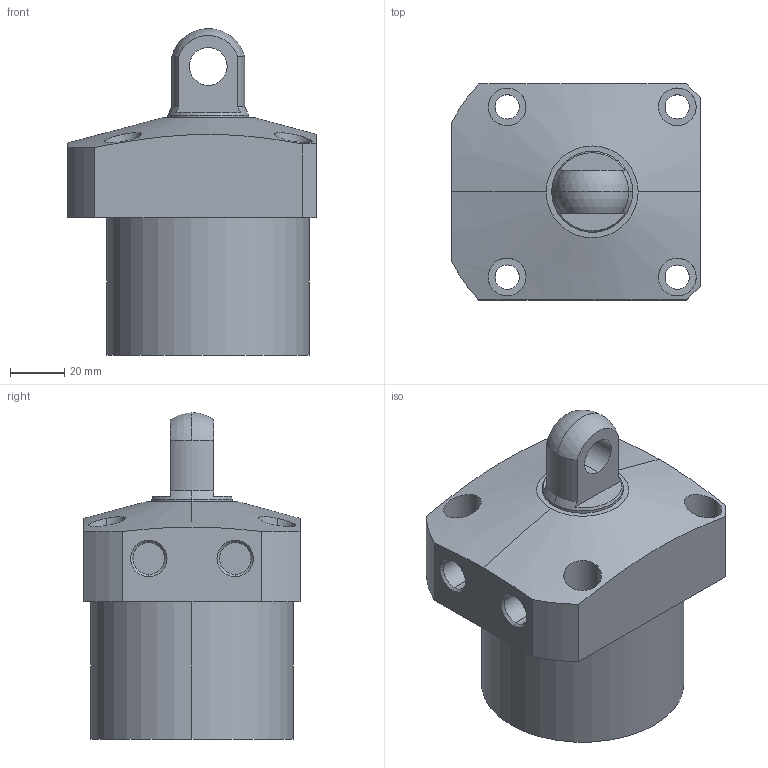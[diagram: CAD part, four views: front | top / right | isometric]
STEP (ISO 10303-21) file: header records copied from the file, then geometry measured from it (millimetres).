
FILE_DESCRIPTION (( 'STEP AP203' ), '1' );
FILE_NAME ('CLL-075CP-35.STEP', '2019-12-20T08:26:44', ( '' ), ( '' ), 'SwSTEP 2.0', 'SolidWorks 2015', '' );
FILE_SCHEMA (( 'CONFIG_CONTROL_DESIGN' ));
Length unit declared in the file: millimetre
Products named in the file (1): CLL-075CP-35
Bounding box: 92 x 80 x 121 mm (x, y, z)
Volume: 454780.9 mm3; surface area: 43286.2 mm2
Topology: 1 solids, 1 shells, 66 faces, 155 edges, 101 vertices
Faces by surface type: cylinder 35, plane 21, cone 8, sphere 2
Entity records: 2408 total; most frequent: CARTESIAN_POINT 755, DIRECTION 345, ORIENTED_EDGE 310, EDGE_CURVE 155, AXIS2_PLACEMENT_3D 143, VERTEX_POINT 101, EDGE_LOOP 86, CIRCLE 76
